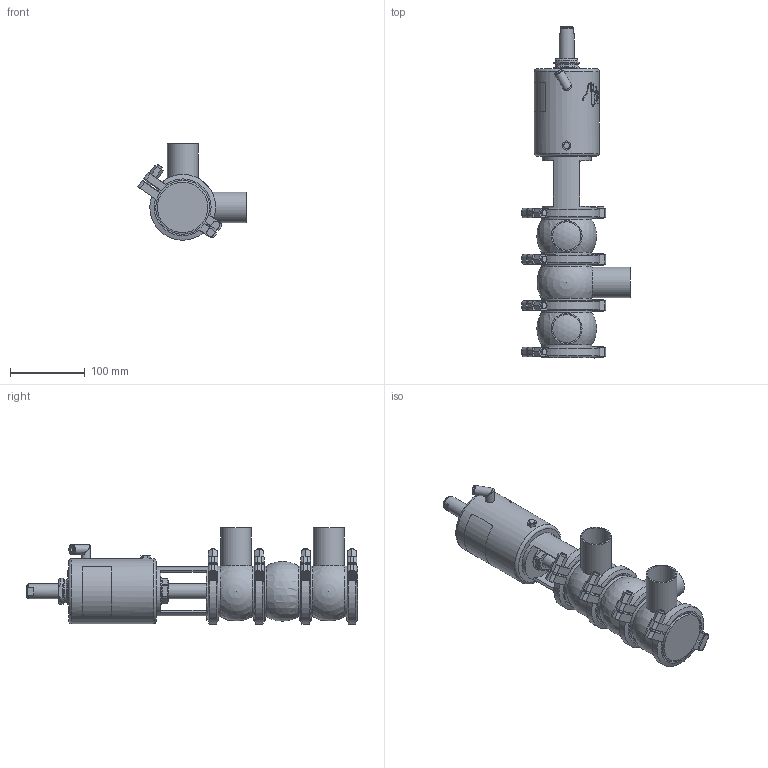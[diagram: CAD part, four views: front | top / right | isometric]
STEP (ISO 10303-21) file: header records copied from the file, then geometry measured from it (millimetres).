
FILE_DESCRIPTION (( 'STEP AP214' ), '1' );
FILE_NAME ('INNOVA L J W DIN 040 T1 AS NC_10.241.16.0013.STEP', '2024-08-07T07:48:33', ( '' ), ( '' ), 'SwSTEP 2.0', 'SolidWorks 2023', '' );
FILE_SCHEMA (( 'AUTOMOTIVE_DESIGN' ));
Length unit declared in the file: millimetre
Products named in the file (6): 10.240.15.0001_DN 040; 10.241.15.0001_DIN 040; INNOVA L J W DIN 040 T1 AS NC_10.241.16.0013; 10.240.15.0006_DIN 040; 10.240.15.0014_T1 AS P180; 10.240.15.0010_DN 040
Assembly tree (10 placements, depth 2):
  INNOVA L J W DIN 040 T1 AS NC_10.241.16.0013
    10.240.15.0006_DIN 040  x3
    10.240.15.0010_DN 040
    10.240.15.0014_T1 AS P180
    10.240.15.0001_DN 040  x4
    10.241.15.0001_DIN 040
Bounding box: 145.13 x 444.07 x 129 mm (x, y, z)
Volume: 1810299.1 mm3; surface area: 275696.5 mm2
Topology: 11 solids, 11 shells, 532 faces, 1396 edges, 908 vertices
Faces by surface type: plane 260, cylinder 136, bspline 80, cone 46, sphere 6, torus 4
Full cylindrical faces by diameter (mm): 6.15 x1, 8 x9, 8.5 x1, 10.5 x1, 12.5 x3, 16 x1, 20 x2, 31 x1, 34.5 x2, 36.5 x1, 38 x3, 41 x3, 66 x1, 67.5 x7, 79.5 x8, 87 x1
Entity records: 19298 total; most frequent: CARTESIAN_POINT 10175, ORIENTED_EDGE 1592, DIRECTION 1209, EDGE_CURVE 796, VERTEX_POINT 547, AXIS2_PLACEMENT_3D 460, EDGE_LOOP 399, FACE_OUTER_BOUND 360
